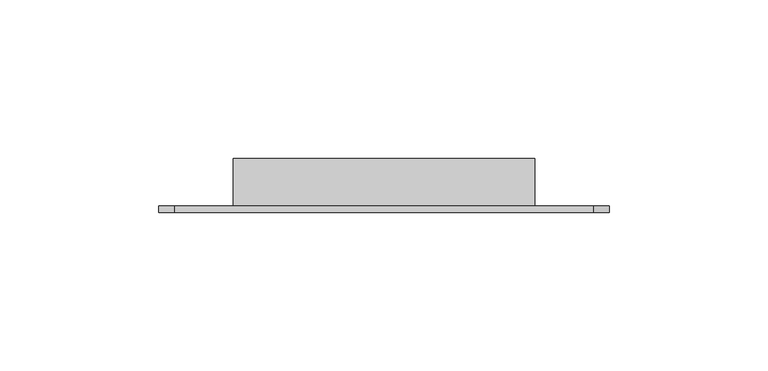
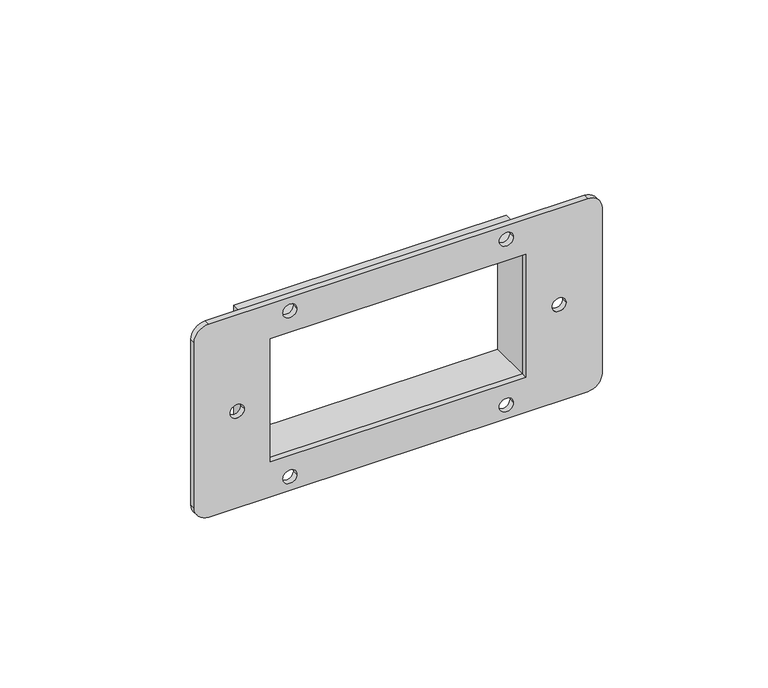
"""IFC4 building model written with IfcOpenShell, lengths in millimetres: proxy geometry, КНС_КаркасыДляМонтажаЭУИBravaВКоробкиPDD-N120_DKC : 4 модуля."""

from ifc_helpers import new_model, si_unit, point, frame, frame_2d, origin, place, context, project, spatial, polyline, circle_curve, trimmed, segment, composite_curve, outline, extrude, source, transform, mapped, element, save


def electrical_fixtures_ccfadcb0(model_context):
    return source(origin(), model_context, "Body", "SweptSolid", [
        extrude(outline(composite_curve([segment(polyline([(35.45, 65.95), (35.45, -65.95)]), True, "CONTINUOUS"), segment(trimmed(circle_curve(frame_2d((30.45, -65.95)), 5.0), [point((35.45, -65.95))], [point((30.45, -70.95))], False, "CARTESIAN"), True, "CONTINUOUS"), segment(polyline([(30.45, -70.95), (-30.45, -70.95)]), True, "CONTINUOUS"), segment(trimmed(circle_curve(frame_2d((-30.45, -65.95)), 5.0), [point((-30.45, -70.95))], [point((-35.45, -65.95))], False, "CARTESIAN"), True, "CONTINUOUS"), segment(polyline([(-35.45, -65.95), (-35.45, 65.95)]), True, "CONTINUOUS"), segment(trimmed(circle_curve(frame_2d((-30.45, 65.95)), 5.0), [point((-35.45, 65.95))], [point((-30.45, 70.95))], False, "CARTESIAN"), True, "CONTINUOUS"), segment(polyline([(-30.45, 70.95), (30.45, 70.95)]), True, "CONTINUOUS"), segment(trimmed(circle_curve(frame_2d((30.45, 65.95)), 5.0), [point((30.45, 70.95))], [point((35.45, 65.95))], False, "CARTESIAN"), True, "CONTINUOUS")], self_intersect=False), holes=[polyline([(22.6231857, 44.45), (-22.6231857, 44.45), (-22.6231857, -44.45), (22.6231857, -44.45), (22.6231857, 44.45)]), composite_curve([segment(trimmed(circle_curve(frame_2d((-30.4923961, -37.6558622)), 2.4387876), [point((-30.4923961, -40.0946498))], [point((-30.4923961, -35.2170746))], True, "CARTESIAN"), True, "CONTINUOUS"), segment(trimmed(circle_curve(frame_2d((-30.4923961, -37.6558622)), 2.4387876), [point((-30.4923961, -35.2170746))], [point((-30.4923961, -40.0946498))], True, "CARTESIAN"), True, "CONTINUOUS")], self_intersect=False), composite_curve([segment(trimmed(circle_curve(frame_2d((0.0, 55.9923961)), 2.4387876), [point((0.0, 53.5536085))], [point((0.0, 58.4311836))], True, "CARTESIAN"), True, "CONTINUOUS"), segment(trimmed(circle_curve(frame_2d((0.0, 55.9923961)), 2.4387876), [point((0.0, 58.4311836))], [point((0.0, 53.5536085))], True, "CARTESIAN"), True, "CONTINUOUS")], self_intersect=False), composite_curve([segment(trimmed(circle_curve(frame_2d((0.0, -55.9923961)), 2.4387876), [point((0.0, -53.5536085))], [point((0.0, -58.4311836))], True, "CARTESIAN"), True, "CONTINUOUS"), segment(trimmed(circle_curve(frame_2d((0.0, -55.9923961)), 2.4387876), [point((0.0, -58.4311836))], [point((0.0, -53.5536085))], True, "CARTESIAN"), True, "CONTINUOUS")], self_intersect=False), composite_curve([segment(trimmed(circle_curve(frame_2d((-30.4923961, 37.6558622)), 2.4387876), [point((-30.4923961, 40.0946498))], [point((-30.4923961, 35.2170746))], True, "CARTESIAN"), True, "CONTINUOUS"), segment(trimmed(circle_curve(frame_2d((-30.4923961, 37.6558622)), 2.4387876), [point((-30.4923961, 35.2170746))], [point((-30.4923961, 40.0946498))], True, "CARTESIAN"), True, "CONTINUOUS")], self_intersect=False), composite_curve([segment(trimmed(circle_curve(frame_2d((30.4923961, -37.6558622)), 2.4387876), [point((30.4923961, -35.2170746))], [point((30.4923961, -40.0946498))], True, "CARTESIAN"), True, "CONTINUOUS"), segment(trimmed(circle_curve(frame_2d((30.4923961, -37.6558622)), 2.4387876), [point((30.4923961, -40.0946498))], [point((30.4923961, -35.2170746))], True, "CARTESIAN"), True, "CONTINUOUS")], self_intersect=False), composite_curve([segment(trimmed(circle_curve(frame_2d((30.4923961, 37.6558622)), 2.4387876), [point((30.4923961, 40.0946498))], [point((30.4923961, 35.2170746))], True, "CARTESIAN"), True, "CONTINUOUS"), segment(trimmed(circle_curve(frame_2d((30.4923961, 37.6558622)), 2.4387876), [point((30.4923961, 35.2170746))], [point((30.4923961, 40.0946498))], True, "CARTESIAN"), True, "CONTINUOUS")], self_intersect=False)]), frame((0.0, -2.0, 0.0), z_axis=(0.0, 1.0, 0.0), x_axis=(0.0, 0.0, 1.0)), (0.0, 0.0, 1.0), 2.0),
        extrude(outline(polyline([(25.6231857, 47.45), (25.6231857, -47.45), (-25.6231857, -47.45), (-25.6231857, 47.45), (25.6231857, 47.45)]), holes=[polyline([(22.6231857, 44.45), (-22.6231857, 44.45), (-22.6231857, -44.45), (22.6231857, -44.45), (22.6231857, 44.45)])]), frame((0.0, 0.0, 0.0), z_axis=(0.0, 1.0, 0.0), x_axis=(0.0, 0.0, 1.0)), (0.0, 0.0, 1.0), 15.0),
    ])


if __name__ == "__main__":
    model = new_model("IFC4")
    model_context = context("Model", 3, world=origin())
    ifc_project = project(units=[si_unit("LENGTHUNIT", "METRE", prefix="MILLI")], contexts=[model_context])
    site = spatial("IfcSite", under=ifc_project)
    building = spatial("IfcBuilding", under=site)
    placement = place(None, origin())
    electrical_fixtures_shape = electrical_fixtures_ccfadcb0(model_context)
    element("IfcBuildingElementProxy", 1, Name="КНС_КаркасыДляМонтажаЭУИBravaВКоробкиPDD-N120_DKC : 4 модуля", ObjectType="КНС_КаркасыДляМонтажаЭУИBravaВКоробкиPDD-N120_DKC : 4 модуля", at=placement, inside=building, context=model_context, shape_type="MappedRepresentation", body=[
        mapped(electrical_fixtures_shape, transform((0.0, 0.0, 0.0), x_axis=(1.0, 0.0, 0.0), y_axis=(0.0, 1.0, 0.0), z_axis=(0.0, 0.0, 1.0))),
    ])
    save(model, "model.ifc")
